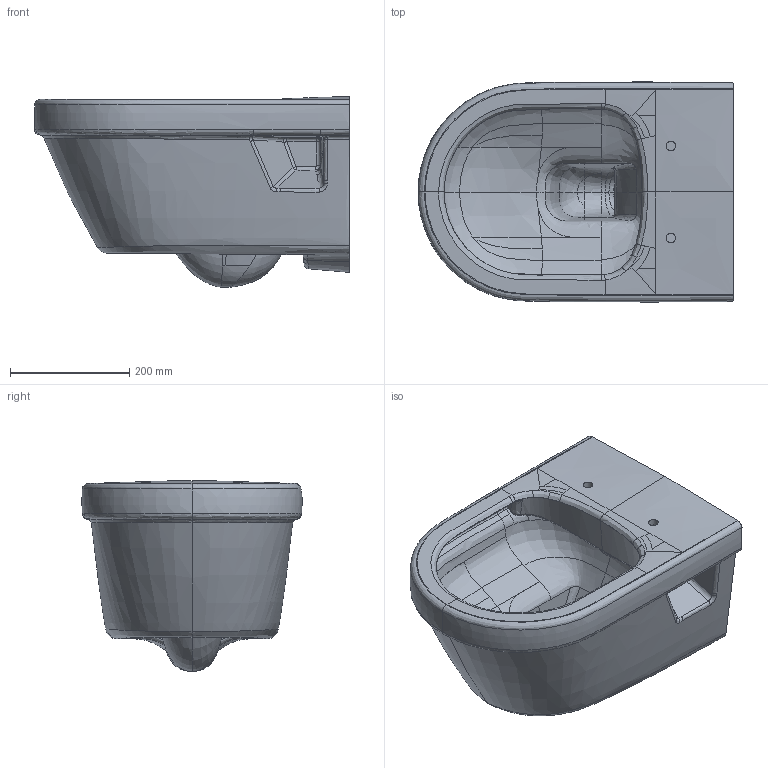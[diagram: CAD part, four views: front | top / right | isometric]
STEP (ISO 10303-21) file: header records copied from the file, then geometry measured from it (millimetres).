
FILE_DESCRIPTION(/* description */ (''),/* implementation_level */ '2;1');
FILE_NAME(/* name */ '4675R0_New-Targa-WWC-DF-D-Shape.stp',/* time_stamp */ '2021-04-15T08:23:01+02:00',/* author */ (''),/* organization */ (''),/* preprocessor_version */ 'ST-DEVELOPER v16.7',/* originating_system */ 'SIEMENS PLM Software NX 1863',/* authorisation */ '');
FILE_SCHEMA (('AUTOMOTIVE_DESIGN { 1 0 10303 214 3 1 1 1 }'));
Products named in the file (1): koeb337434CElcrs
Bounding box: 529.19 x 369.78 x 320.96 mm (x, y, z)
Volume: 11072635.4 mm3; surface area: 1504429.8 mm2
Topology: 1 solids, 2 shells, 1108 faces, 2918 edges, 1721 vertices
Faces by surface type: bspline 907, plane 73, cylinder 71, sphere 29, cone 12, extrusion 10, torus 6
Full cylindrical faces by diameter (mm): 8 x8, 9 x1, 12 x2, 16 x2
Entity records: 118374 total; most frequent: CARTESIAN_POINT 100366, ORIENTED_EDGE 5634, EDGE_CURVE 2817, B_SPLINE_CURVE_WITH_KNOTS 1993, VERTEX_POINT 1710, EDGE_LOOP 1139, ADVANCED_FACE 1108, FACE_OUTER_BOUND 1079
